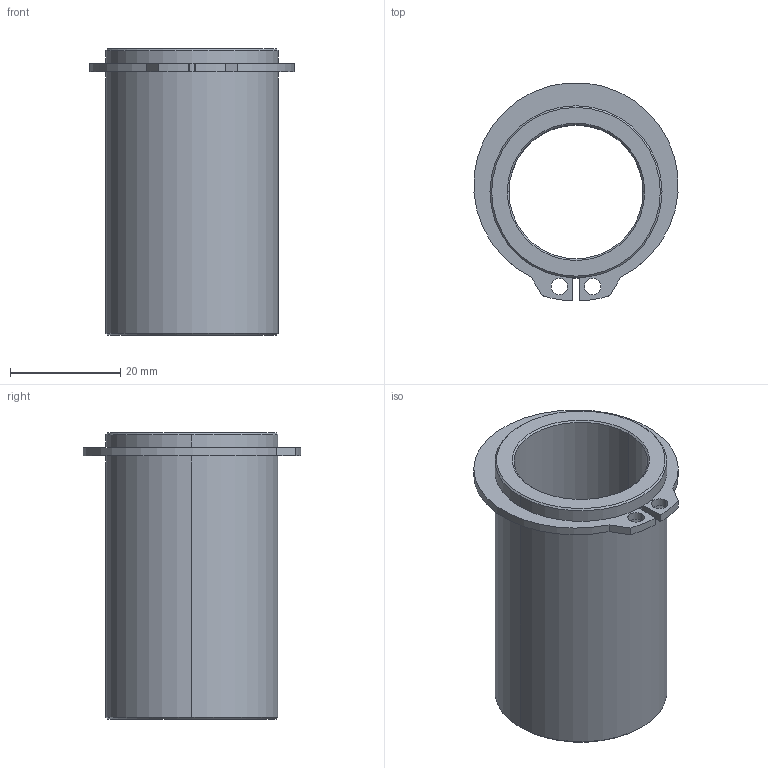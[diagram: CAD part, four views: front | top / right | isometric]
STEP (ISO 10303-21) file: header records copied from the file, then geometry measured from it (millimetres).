
FILE_DESCRIPTION((''),'2;1');
FILE_NAME('C13_024_052.stp','2008-12-17T14:55:08',(''),(''),'Mechanical Desktop 2009','Mechanical Desktop 2009',', , ');
FILE_SCHEMA(('CONFIG_CONTROL_DESIGN'));
Length unit declared in the file: millimetre
Products named in the file (2): Product; blmdl1
Assembly tree (1 placements, depth 2):
  Product
    blmdl1
Bounding box: 37.06 x 39.59 x 52 mm (x, y, z)
Volume: 16150.8 mm3; surface area: 10856.1 mm2
Topology: 2 solids, 2 shells, 34 faces, 76 edges, 48 vertices
Faces by surface type: cylinder 16, plane 10, cone 8
Entity records: 1075 total; most frequent: DIRECTION 188, CARTESIAN_POINT 160, ORIENTED_EDGE 152, AXIS2_PLACEMENT_3D 76, EDGE_CURVE 76, VERTEX_POINT 48, EDGE_LOOP 42, CIRCLE 40
